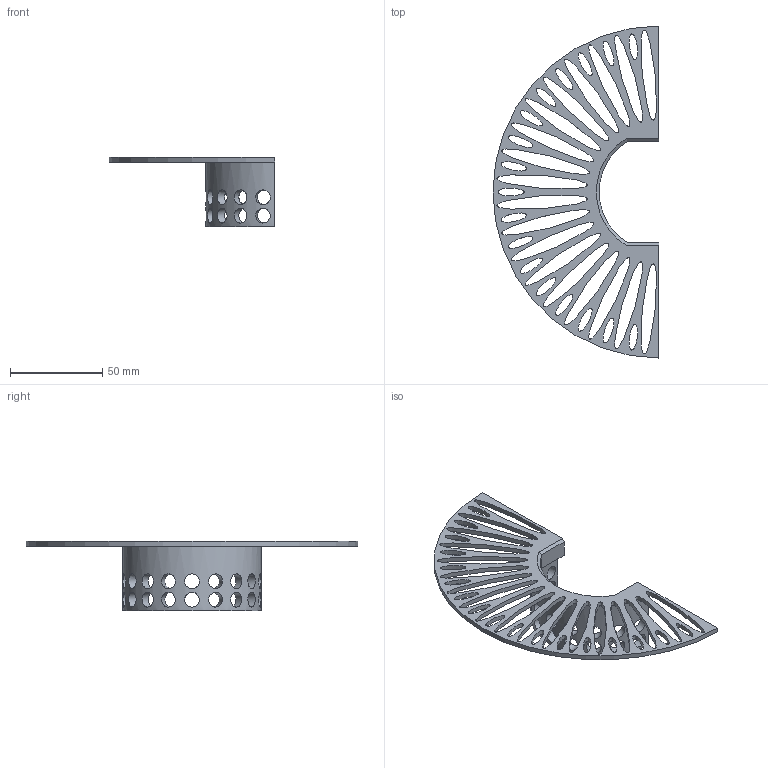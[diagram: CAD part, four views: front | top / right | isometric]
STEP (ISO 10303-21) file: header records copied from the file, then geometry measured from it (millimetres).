
FILE_DESCRIPTION(/* description */ ('STEP AP242 Edition 2','CAx-IF Rec.Pracs.---Representation and Presentation of Product Manufacturing Information (PMI)---4.0---2014-10-13','CAx-IF Rec.Pracs.---3D Tessellated Geometry---0.4---2014-09-14','2;1','CAx-IF Rec.Pracs.---User Defined Attributes---1.5---2016-08-15'),/* implementation_level */ '2;1');
FILE_NAME(/* name */ 'Part Studio 1 - Part 1',/* time_stamp */ '2026-05-31T12:04:56Z',/* author */ (''),/* organization */ (''),/* preprocessor_version */ 'ST-DEVELOPER v20',/* originating_system */ 'ONSHAPE BY PTC INC, 1.215',/* authorisation */ ' ');
FILE_SCHEMA (('AP242_MANAGED_MODEL_BASED_3D_ENGINEERING_MIM_LF { 1 0 10303 442 3 1 4 }'));
Length unit declared in the file: metre
Products named in the file (1): Part 1
Bounding box: 90 x 180 x 37.5 mm (x, y, z)
Volume: 29247.3 mm3; surface area: 26814.8 mm2
Topology: 1 solids, 1 shells, 73 faces, 205 edges, 136 vertices
Faces by surface type: bspline 36, cylinder 23, plane 13, cone 1
Full cylindrical faces by diameter (mm): 6.2 x2, 8 x18
Entity records: 3562 total; most frequent: CARTESIAN_POINT 1755, ORIENTED_EDGE 302, DIRECTION 274, EDGE_LOOP 235, FACE_BOUND 235, EDGE_CURVE 151, VERTEX_POINT 136, AXIS2_PLACEMENT_3D 123
